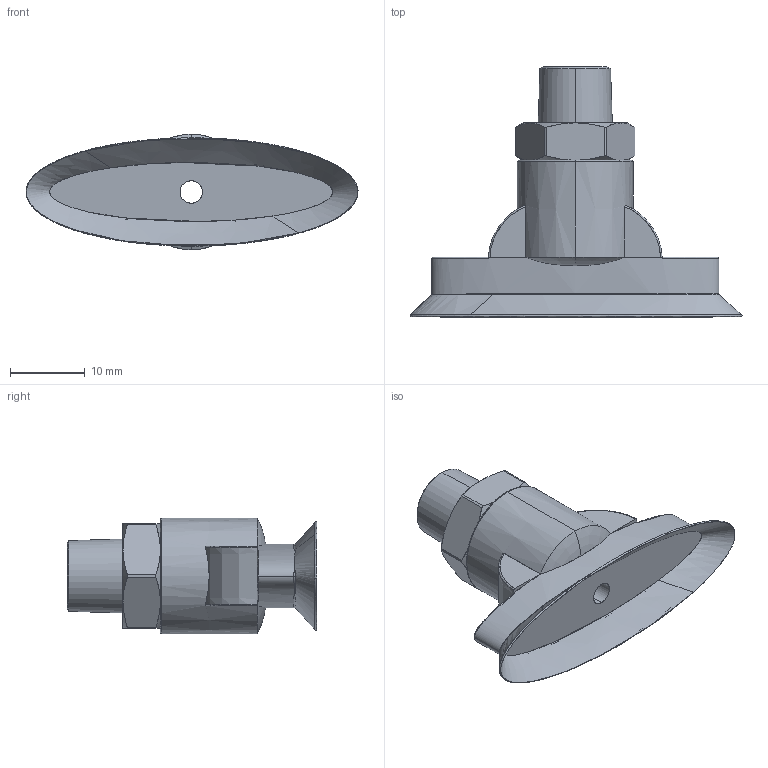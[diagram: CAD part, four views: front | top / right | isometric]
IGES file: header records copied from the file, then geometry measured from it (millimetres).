
Start section: SolidWorks IGES file using analytic representation for surfaces
Global section: file name: E:\eins\20070625石神\シュマルツ\SSGONシリーズ\183938.IGS; native system: SolidWorks 2006 by SolidWorks Corporation; preprocessor: SolidWorks 2006 by SolidWorks Corporation; author: CAD54; date: 070625.172532; units: millimetre
Bounding box: 44.5 x 33.5 x 15.5 mm (x, y, z)
Surface area: 3222.2 mm2 (no closed solid volume)
Topology: 0 solids, 0 shells, 77 faces, 1122 edges, 1122 vertices
Faces by surface type: bspline 47, revolution 30
